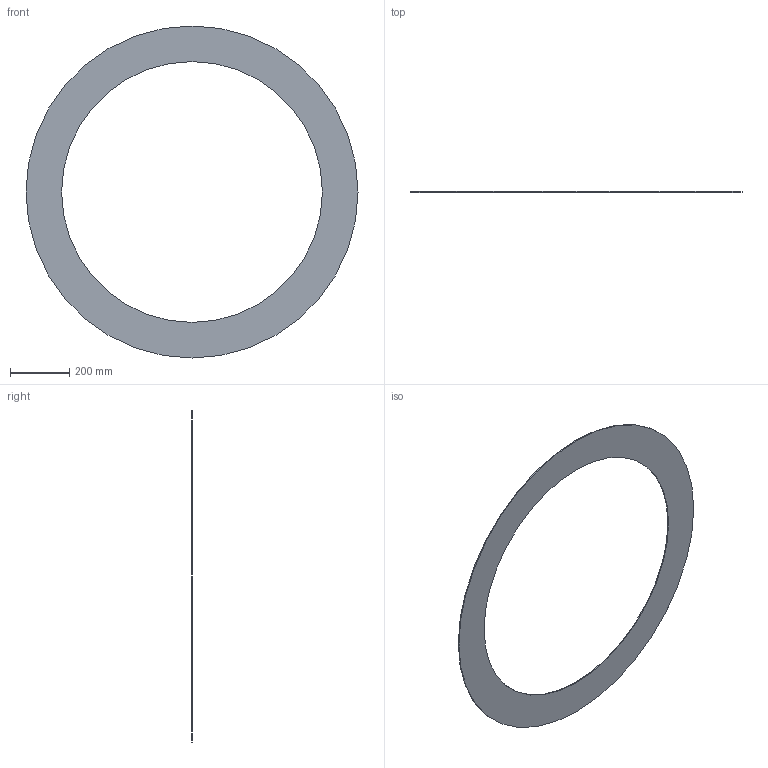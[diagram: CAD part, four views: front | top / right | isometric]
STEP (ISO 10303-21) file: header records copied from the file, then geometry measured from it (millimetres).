
FILE_DESCRIPTION(/* description */ ('Unknown'),/* implementation_level */ '2;1');
FILE_NAME(/* name */ 'GUA.1000B',/* time_stamp */ '2021-04-01T14:47:57+02:00',/* author */ ('Unknown'),/* organization */ ('Unknown'),/* preprocessor_version */ 'ST-DEVELOPER v16.7',/* originating_system */ 'Solid Edge',/* authorisation */ 'Unknown');
FILE_SCHEMA (('AUTOMOTIVE_DESIGN {1 0 10303 214 3 1 1}'));
Length unit declared in the file: millimetre
Products named in the file (1): GUA.1000B
Bounding box: 1124 x 3 x 1124 mm (x, y, z)
Volume: 1139660.6 mm3; surface area: 778689.3 mm2
Topology: 1 solids, 1 shells, 4 faces, 6 edges, 4 vertices
Faces by surface type: cylinder 2, plane 2
Full cylindrical faces by diameter (mm): 883 x1, 1124 x1
Entity records: 118 total; most frequent: DIRECTION 18, CARTESIAN_POINT 13, AXIS2_PLACEMENT_3D 9, ORIENTED_EDGE 8, EDGE_LOOP 8, FACE_BOUND 8, EDGE_CURVE 4, VERTEX_POINT 4
